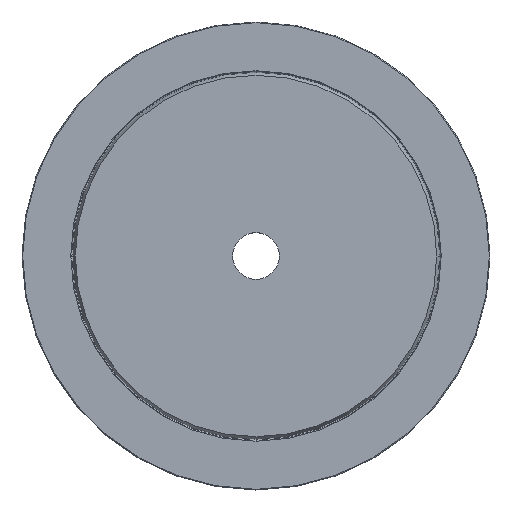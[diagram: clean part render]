
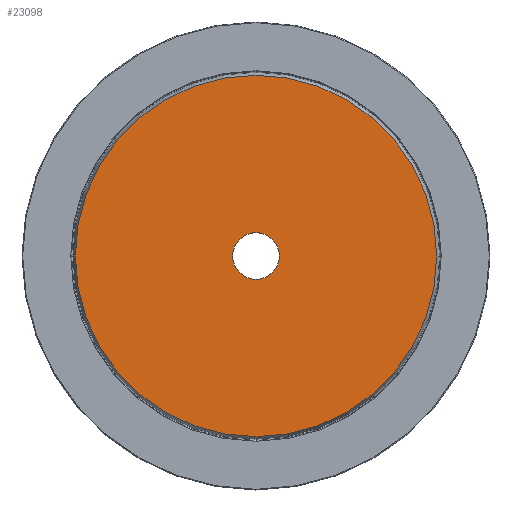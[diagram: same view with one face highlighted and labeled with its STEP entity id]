
A CAD part, top view. The second image highlights one B-rep face of the part: STEP entity #23098.
In plain terms, the highlighted planar face has unit normal (0, 0, 1).
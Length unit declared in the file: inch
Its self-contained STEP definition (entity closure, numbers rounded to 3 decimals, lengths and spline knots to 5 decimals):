
#299 = AXIS2_PLACEMENT_3D ( 'NONE', #59614, #28085, #64936 ) ;
#1429 = VERTEX_POINT ( 'NONE', #39435 ) ;
#2843 = CARTESIAN_POINT ( 'NONE',  ( -7.76133, 0., 0. ) ) ;
#4945 = ORIENTED_EDGE ( 'NONE', *, *, #32336, .T. ) ;
#5955 = CIRCLE ( 'NONE', #299, 1. ) ;
#6426 = CARTESIAN_POINT ( 'NONE',  ( 0., 0., 0. ) ) ;
#10990 = CARTESIAN_POINT ( 'NONE',  ( 0., 0., 0. ) ) ;
#11724 = DIRECTION ( 'NONE',  ( 1., 0., 0. ) ) ;
#15279 = DIRECTION ( 'NONE',  ( 0., 0., 1. ) ) ;
#16261 = DIRECTION ( 'NONE',  ( 1., 0., 0. ) ) ;
#19095 = ORIENTED_EDGE ( 'NONE', *, *, #35936, .T. ) ;
#20454 = DIRECTION ( 'NONE',  ( 1., 0., 0. ) ) ;
#22420 = CIRCLE ( 'NONE', #23300, 7.76133 ) ;
#23098 = ADVANCED_FACE ( 'NONE', ( #27673, #40054 ), #31277, .T. ) ;
#23300 = AXIS2_PLACEMENT_3D ( 'NONE', #6426, #43261, #11724 ) ;
#24457 = VERTEX_POINT ( 'NONE', #2843 ) ;
#26291 = EDGE_LOOP ( 'NONE', ( #51511, #59511 ) ) ;
#27673 = FACE_BOUND ( 'NONE', #26291, .T. ) ;
#28085 = DIRECTION ( 'NONE',  ( 0., 0., -1. ) ) ;
#31277 = PLANE ( 'NONE',  #56648 ) ;
#31459 = CIRCLE ( 'NONE', #63884, 1. ) ;
#32336 = EDGE_CURVE ( 'NONE', #24457, #1429, #43333, .T. ) ;
#35936 = EDGE_CURVE ( 'NONE', #1429, #24457, #22420, .T. ) ;
#39435 = CARTESIAN_POINT ( 'NONE',  ( 7.76133, 0., 0. ) ) ;
#40054 = FACE_OUTER_BOUND ( 'NONE', #44374, .T. ) ;
#40415 = VERTEX_POINT ( 'NONE', #48052 ) ;
#43261 = DIRECTION ( 'NONE',  ( 0., 0., 1. ) ) ;
#43333 = CIRCLE ( 'NONE', #64692, 7.76133 ) ;
#44374 = EDGE_LOOP ( 'NONE', ( #4945, #19095 ) ) ;
#46834 = CARTESIAN_POINT ( 'NONE',  ( 0., 0., 0. ) ) ;
#47541 = CARTESIAN_POINT ( 'NONE',  ( 0., 0., 0. ) ) ;
#47847 = DIRECTION ( 'NONE',  ( 0., 0., -1. ) ) ;
#48052 = CARTESIAN_POINT ( 'NONE',  ( 1., 0., 0. ) ) ;
#50834 = VERTEX_POINT ( 'NONE', #59519 ) ;
#51511 = ORIENTED_EDGE ( 'NONE', *, *, #65474, .T. ) ;
#52087 = DIRECTION ( 'NONE',  ( 1., 0., 0. ) ) ;
#56648 = AXIS2_PLACEMENT_3D ( 'NONE', #47541, #64413, #20454 ) ;
#59511 = ORIENTED_EDGE ( 'NONE', *, *, #65908, .T. ) ;
#59519 = CARTESIAN_POINT ( 'NONE',  ( -1., 0., 0. ) ) ;
#59614 = CARTESIAN_POINT ( 'NONE',  ( 0., 0., 0. ) ) ;
#63884 = AXIS2_PLACEMENT_3D ( 'NONE', #10990, #47847, #16261 ) ;
#64413 = DIRECTION ( 'NONE',  ( 0., 0., 1. ) ) ;
#64692 = AXIS2_PLACEMENT_3D ( 'NONE', #46834, #15279, #52087 ) ;
#64936 = DIRECTION ( 'NONE',  ( 1., 0., 0. ) ) ;
#65474 = EDGE_CURVE ( 'NONE', #40415, #50834, #5955, .T. ) ;
#65908 = EDGE_CURVE ( 'NONE', #50834, #40415, #31459, .T. ) ;
